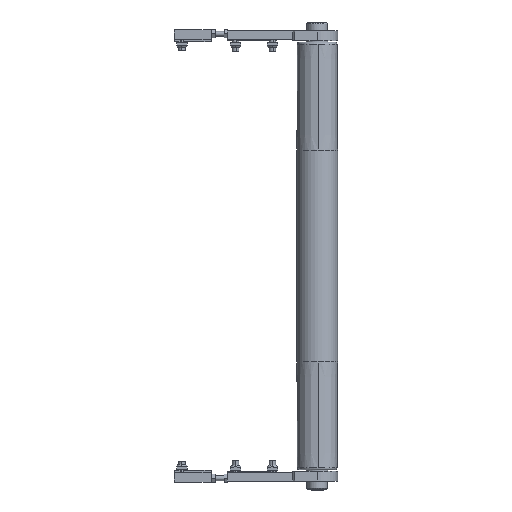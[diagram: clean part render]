
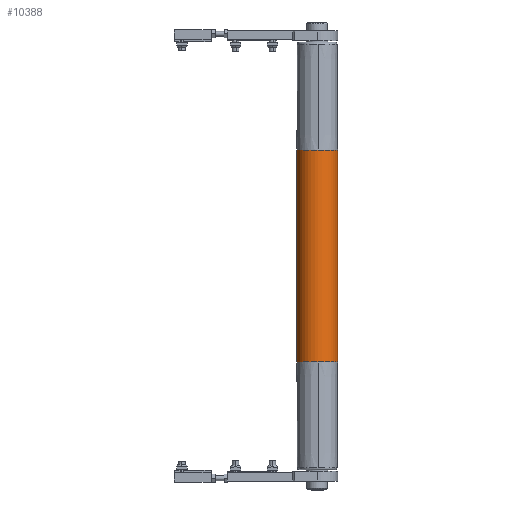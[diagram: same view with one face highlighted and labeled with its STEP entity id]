
A CAD part, front view. The second image highlights one B-rep face of the part: STEP entity #10388.
In plain terms, the highlighted cylindrical face has radius 25 mm (diameter 50 mm), a partial arc.
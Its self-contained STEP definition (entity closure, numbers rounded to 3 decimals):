
#476 = VECTOR ( 'NONE', #10088, 1000. ) ;
#998 = AXIS2_PLACEMENT_3D ( 'NONE', #4100, #5916, #5079 ) ;
#999 = CARTESIAN_POINT ( 'NONE',  ( -130., 0., -25. ) ) ;
#1390 = VERTEX_POINT ( 'NONE', #2321 ) ;
#1426 = CARTESIAN_POINT ( 'NONE',  ( 130., 0., 0. ) ) ;
#2011 = DIRECTION ( 'NONE',  ( -1., 0., 0. ) ) ;
#2040 = EDGE_CURVE ( 'NONE', #4316, #10556, #5783, .T. ) ;
#2087 = DIRECTION ( 'NONE',  ( -1., 0., 0. ) ) ;
#2124 = CIRCLE ( 'NONE', #11647, 25. ) ;
#2321 = CARTESIAN_POINT ( 'NONE',  ( 130., 0., 25. ) ) ;
#2417 = DIRECTION ( 'NONE',  ( 0., -1., 0. ) ) ;
#2457 = CIRCLE ( 'NONE', #7543, 25. ) ;
#2586 = EDGE_CURVE ( 'NONE', #5133, #7002, #7890, .T. ) ;
#2602 = EDGE_CURVE ( 'NONE', #1390, #4316, #8041, .T. ) ;
#2861 = ORIENTED_EDGE ( 'NONE', *, *, #12170, .T. ) ;
#3196 = CARTESIAN_POINT ( 'NONE',  ( -130., 0., 25. ) ) ;
#3257 = ORIENTED_EDGE ( 'NONE', *, *, #2586, .T. ) ;
#3266 = CARTESIAN_POINT ( 'NONE',  ( 260., 0., 25. ) ) ;
#3444 = ORIENTED_EDGE ( 'NONE', *, *, #2602, .F. ) ;
#3649 = CARTESIAN_POINT ( 'NONE',  ( 130., 0., -25. ) ) ;
#4049 = CARTESIAN_POINT ( 'NONE',  ( -130., 0., 0. ) ) ;
#4100 = CARTESIAN_POINT ( 'NONE',  ( 260., 0., 0. ) ) ;
#4316 = VERTEX_POINT ( 'NONE', #3196 ) ;
#4884 = FACE_OUTER_BOUND ( 'NONE', #10104, .T. ) ;
#5012 = DIRECTION ( 'NONE',  ( 0., -1., 0. ) ) ;
#5079 = DIRECTION ( 'NONE',  ( 0., 0., 1. ) ) ;
#5133 = VERTEX_POINT ( 'NONE', #10247 ) ;
#5358 = VERTEX_POINT ( 'NONE', #999 ) ;
#5783 = CIRCLE ( 'NONE', #8400, 25. ) ;
#5916 = DIRECTION ( 'NONE',  ( -1., 0., 0. ) ) ;
#6557 = ORIENTED_EDGE ( 'NONE', *, *, #11615, .T. ) ;
#7002 = VERTEX_POINT ( 'NONE', #3649 ) ;
#7151 = CYLINDRICAL_SURFACE ( 'NONE', #998, 25. ) ;
#7246 = AXIS2_PLACEMENT_3D ( 'NONE', #1426, #8199, #2417 ) ;
#7345 = CARTESIAN_POINT ( 'NONE',  ( -130., 25., 0. ) ) ;
#7543 = AXIS2_PLACEMENT_3D ( 'NONE', #4049, #10788, #5012 ) ;
#7860 = CARTESIAN_POINT ( 'NONE',  ( 130., 0., 0. ) ) ;
#7890 = CIRCLE ( 'NONE', #7246, 25. ) ;
#8041 = LINE ( 'NONE', #3266, #476 ) ;
#8092 = DIRECTION ( 'NONE',  ( 0., -1., 0. ) ) ;
#8199 = DIRECTION ( 'NONE',  ( -1., 0., 0. ) ) ;
#8400 = AXIS2_PLACEMENT_3D ( 'NONE', #9975, #11054, #8092 ) ;
#8453 = ORIENTED_EDGE ( 'NONE', *, *, #2040, .F. ) ;
#9516 = ORIENTED_EDGE ( 'NONE', *, *, #11033, .F. ) ;
#9975 = CARTESIAN_POINT ( 'NONE',  ( -130., 0., 0. ) ) ;
#10088 = DIRECTION ( 'NONE',  ( -1., 0., 0. ) ) ;
#10104 = EDGE_LOOP ( 'NONE', ( #2861, #3257, #6557, #9516, #8453, #3444 ) ) ;
#10247 = CARTESIAN_POINT ( 'NONE',  ( 130., 25., 0. ) ) ;
#10388 = ADVANCED_FACE ( 'NONE', ( #4884 ), #7151, .T. ) ;
#10556 = VERTEX_POINT ( 'NONE', #7345 ) ;
#10788 = DIRECTION ( 'NONE',  ( -1., 0., 0. ) ) ;
#10814 = DIRECTION ( 'NONE',  ( 0., -1., 0. ) ) ;
#11033 = EDGE_CURVE ( 'NONE', #10556, #5358, #2457, .T. ) ;
#11054 = DIRECTION ( 'NONE',  ( -1., 0., 0. ) ) ;
#11615 = EDGE_CURVE ( 'NONE', #7002, #5358, #12298, .T. ) ;
#11647 = AXIS2_PLACEMENT_3D ( 'NONE', #7860, #2087, #10814 ) ;
#11671 = CARTESIAN_POINT ( 'NONE',  ( 260., 0., -25. ) ) ;
#11688 = VECTOR ( 'NONE', #2011, 1000. ) ;
#12170 = EDGE_CURVE ( 'NONE', #1390, #5133, #2124, .T. ) ;
#12298 = LINE ( 'NONE', #11671, #11688 ) ;
